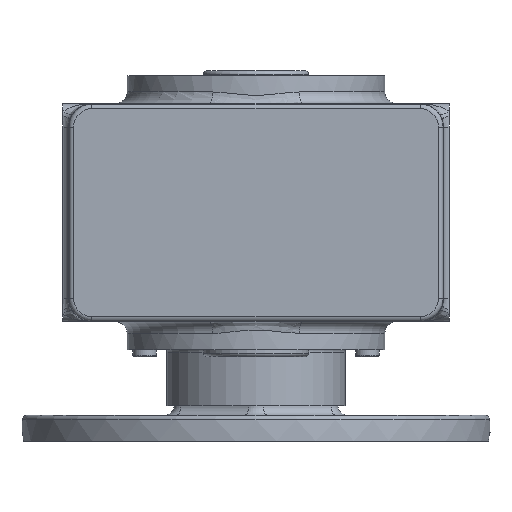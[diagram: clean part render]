
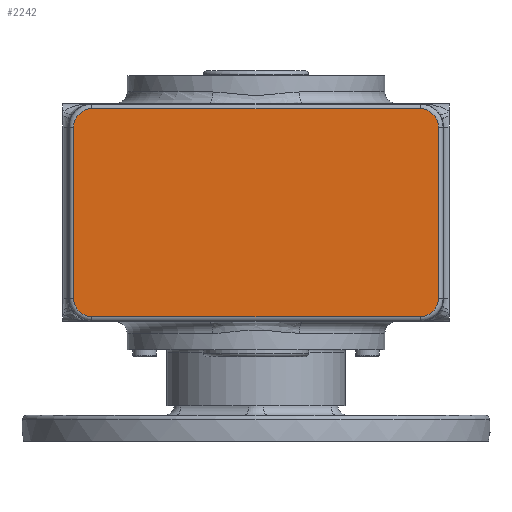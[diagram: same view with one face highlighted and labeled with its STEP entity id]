
A CAD part, front view. The second image highlights one B-rep face of the part: STEP entity #2242.
In plain terms, the highlighted planar face has unit normal (0, -1, 0).
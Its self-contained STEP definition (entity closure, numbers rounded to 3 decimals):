
#1001 = VERTEX_POINT ( 'NONE', #22849 ) ;
#1102 = VERTEX_POINT ( 'NONE', #23056 ) ;
#1111 = VERTEX_POINT ( 'NONE', #23042 ) ;
#2169 = ORIENTED_EDGE ( 'NONE', *, *, #2191, .T. ) ;
#2183 = EDGE_LOOP ( 'NONE', ( #2169, #60916, #60911, #60905, #60917, #60910, #60934, #60935 ) ) ;
#2191 = EDGE_CURVE ( 'NONE', #1001, #1102, #25208, .T. ) ;
#2242 = ADVANCED_FACE ( 'NONE', ( #25260 ), #25259, .T. ) ;
#22849 = CARTESIAN_POINT ( 'NONE',  ( 77.86, -74.5, 10. ) ) ;
#23042 = CARTESIAN_POINT ( 'NONE',  ( 70., -74.5, 90.86 ) ) ;
#23056 = CARTESIAN_POINT ( 'NONE',  ( 77.86, -74.5, 83. ) ) ;
#25201 = DIRECTION ( 'NONE',  ( 0., 0., 1. ) ) ;
#25202 = VECTOR ( 'NONE', #25201, 1000. ) ;
#25203 = CARTESIAN_POINT ( 'NONE',  ( 77.86, -74.5, 83. ) ) ;
#25208 = LINE ( 'NONE', #25203, #25202 ) ;
#25255 = DIRECTION ( 'NONE',  ( 0., 0., -1. ) ) ;
#25256 = DIRECTION ( 'NONE',  ( 0., -1., 0. ) ) ;
#25257 = CARTESIAN_POINT ( 'NONE',  ( 70., -74.5, 10. ) ) ;
#25258 = AXIS2_PLACEMENT_3D ( 'NONE', #25257, #25256, #25255 ) ;
#25259 = PLANE ( 'NONE',  #25258 ) ;
#25260 = FACE_OUTER_BOUND ( 'NONE', #2183, .T. ) ;
#60900 = EDGE_CURVE ( 'NONE', #60914, #60912, #86720, .T. ) ;
#60902 = EDGE_CURVE ( 'NONE', #60912, #60908, #86777, .T. ) ;
#60903 = EDGE_CURVE ( 'NONE', #1111, #60909, #86772, .T. ) ;
#60905 = ORIENTED_EDGE ( 'NONE', *, *, #60913, .T. ) ;
#60908 = VERTEX_POINT ( 'NONE', #86763 ) ;
#60909 = VERTEX_POINT ( 'NONE', #86762 ) ;
#60910 = ORIENTED_EDGE ( 'NONE', *, *, #60902, .T. ) ;
#60911 = ORIENTED_EDGE ( 'NONE', *, *, #60903, .T. ) ;
#60912 = VERTEX_POINT ( 'NONE', #86761 ) ;
#60913 = EDGE_CURVE ( 'NONE', #60909, #60914, #86760, .T. ) ;
#60914 = VERTEX_POINT ( 'NONE', #86755 ) ;
#60916 = ORIENTED_EDGE ( 'NONE', *, *, #60919, .T. ) ;
#60917 = ORIENTED_EDGE ( 'NONE', *, *, #60900, .T. ) ;
#60919 = EDGE_CURVE ( 'NONE', #1102, #1111, #86750, .T. ) ;
#60927 = VERTEX_POINT ( 'NONE', #86794 ) ;
#60929 = EDGE_CURVE ( 'NONE', #60927, #1001, #86787, .T. ) ;
#60932 = EDGE_CURVE ( 'NONE', #60908, #60927, #86781, .T. ) ;
#60934 = ORIENTED_EDGE ( 'NONE', *, *, #60932, .T. ) ;
#60935 = ORIENTED_EDGE ( 'NONE', *, *, #60929, .T. ) ;
#86717 = DIRECTION ( 'NONE',  ( 0., 0., -1. ) ) ;
#86718 = VECTOR ( 'NONE', #86717, 1000. ) ;
#86719 = CARTESIAN_POINT ( 'NONE',  ( -77.86, -74.5, 10. ) ) ;
#86720 = LINE ( 'NONE', #86719, #86718 ) ;
#86746 = DIRECTION ( 'NONE',  ( 0., 0., -1. ) ) ;
#86747 = DIRECTION ( 'NONE',  ( 0., -1., 0. ) ) ;
#86748 = CARTESIAN_POINT ( 'NONE',  ( 70., -74.5, 83. ) ) ;
#86749 = AXIS2_PLACEMENT_3D ( 'NONE', #86748, #86747, #86746 ) ;
#86750 = CIRCLE ( 'NONE', #86749, 7.86 ) ;
#86755 = CARTESIAN_POINT ( 'NONE',  ( -77.86, -74.5, 83. ) ) ;
#86756 = DIRECTION ( 'NONE',  ( 0., 0., -1. ) ) ;
#86757 = DIRECTION ( 'NONE',  ( 0., -1., 0. ) ) ;
#86758 = CARTESIAN_POINT ( 'NONE',  ( -70., -74.5, 83. ) ) ;
#86759 = AXIS2_PLACEMENT_3D ( 'NONE', #86758, #86757, #86756 ) ;
#86760 = CIRCLE ( 'NONE', #86759, 7.86 ) ;
#86761 = CARTESIAN_POINT ( 'NONE',  ( -77.86, -74.5, 10. ) ) ;
#86762 = CARTESIAN_POINT ( 'NONE',  ( -70., -74.5, 90.86 ) ) ;
#86763 = CARTESIAN_POINT ( 'NONE',  ( -70., -74.5, 2.14 ) ) ;
#86769 = DIRECTION ( 'NONE',  ( -1., 0., 0. ) ) ;
#86770 = VECTOR ( 'NONE', #86769, 1000. ) ;
#86771 = CARTESIAN_POINT ( 'NONE',  ( -70., -74.5, 90.86 ) ) ;
#86772 = LINE ( 'NONE', #86771, #86770 ) ;
#86773 = DIRECTION ( 'NONE',  ( 0., 0., -1. ) ) ;
#86774 = DIRECTION ( 'NONE',  ( 0., -1., 0. ) ) ;
#86775 = CARTESIAN_POINT ( 'NONE',  ( -70., -74.5, 10. ) ) ;
#86776 = AXIS2_PLACEMENT_3D ( 'NONE', #86775, #86774, #86773 ) ;
#86777 = CIRCLE ( 'NONE', #86776, 7.86 ) ;
#86778 = DIRECTION ( 'NONE',  ( 1., 0., 0. ) ) ;
#86779 = VECTOR ( 'NONE', #86778, 1000. ) ;
#86780 = CARTESIAN_POINT ( 'NONE',  ( 70., -74.5, 2.14 ) ) ;
#86781 = LINE ( 'NONE', #86780, #86779 ) ;
#86783 = DIRECTION ( 'NONE',  ( 0., 0., -1. ) ) ;
#86784 = DIRECTION ( 'NONE',  ( 0., -1., 0. ) ) ;
#86785 = CARTESIAN_POINT ( 'NONE',  ( 70., -74.5, 10. ) ) ;
#86786 = AXIS2_PLACEMENT_3D ( 'NONE', #86785, #86784, #86783 ) ;
#86787 = CIRCLE ( 'NONE', #86786, 7.86 ) ;
#86794 = CARTESIAN_POINT ( 'NONE',  ( 70., -74.5, 2.14 ) ) ;
